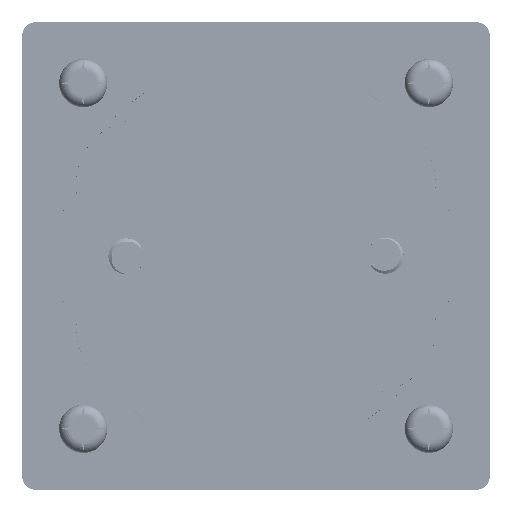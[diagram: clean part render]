
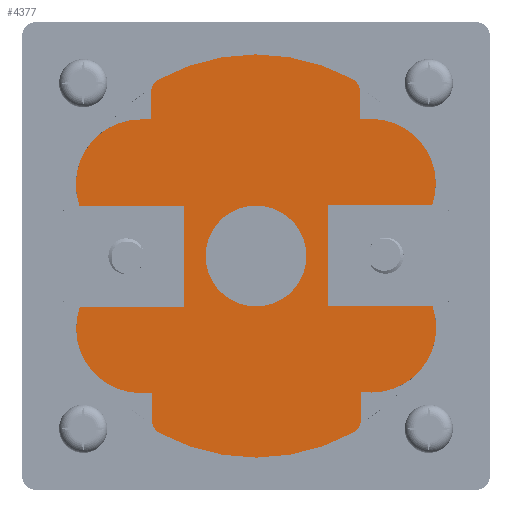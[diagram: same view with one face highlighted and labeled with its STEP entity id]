
A CAD part, front view. The second image highlights one B-rep face of the part: STEP entity #4377.
In plain terms, the highlighted planar face has unit normal (0, -1, 0).
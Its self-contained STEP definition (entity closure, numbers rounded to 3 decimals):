
#2232=FACE_BOUND('',#9215,.T.);
#2233=FACE_BOUND('',#9216,.T.);
#4377=ADVANCED_FACE('',(#2232,#2233),#5632,.F.);
#5632=PLANE('',#36930);
#9215=EDGE_LOOP('',(#22887,#22888,#22889,#22890,#22891,#22892,#22893,#22894,
#22895,#22896,#22897,#22898,#22899,#22900,#22901,#22902,#22903,#22904,#22905,
#22906,#22907,#22908,#22909,#22910,#22911));
#9216=EDGE_LOOP('',(#22912));
#11463=LINE('',#159522,#13922);
#11466=LINE('',#159528,#13925);
#11470=LINE('',#159540,#13929);
#11473=LINE('',#159548,#13932);
#11475=LINE('',#159552,#13934);
#11477=LINE('',#159556,#13936);
#11479=LINE('',#159572,#13938);
#11483=LINE('',#159593,#13942);
#11485=LINE('',#159610,#13944);
#11487=LINE('',#159614,#13946);
#11616=LINE('',#159958,#14075);
#11621=LINE('',#159970,#14080);
#11656=LINE('',#160084,#14115);
#11660=LINE('',#160106,#14119);
#13922=VECTOR('',#44005,1.);
#13925=VECTOR('',#44010,1.);
#13929=VECTOR('',#44022,1.);
#13932=VECTOR('',#44031,1.);
#13934=VECTOR('',#44035,1.);
#13936=VECTOR('',#44039,1.);
#13938=VECTOR('',#44047,1.);
#13942=VECTOR('',#44057,1.);
#13944=VECTOR('',#44067,1.);
#13946=VECTOR('',#44071,1.);
#14075=VECTOR('',#44412,1.);
#14080=VECTOR('',#44427,1.);
#14115=VECTOR('',#44528,1.);
#14119=VECTOR('',#44554,1.);
#22887=ORIENTED_EDGE('',*,*,#32037,.F.);
#22888=ORIENTED_EDGE('',*,*,#32035,.T.);
#22889=ORIENTED_EDGE('',*,*,#32031,.T.);
#22890=ORIENTED_EDGE('',*,*,#32212,.T.);
#22891=ORIENTED_EDGE('',*,*,#32280,.T.);
#22892=ORIENTED_EDGE('',*,*,#32281,.T.);
#22893=ORIENTED_EDGE('',*,*,#32282,.T.);
#22894=ORIENTED_EDGE('',*,*,#32220,.T.);
#22895=ORIENTED_EDGE('',*,*,#32027,.T.);
#22896=ORIENTED_EDGE('',*,*,#32024,.T.);
#22897=ORIENTED_EDGE('',*,*,#32021,.T.);
#22898=ORIENTED_EDGE('',*,*,#32019,.F.);
#22899=ORIENTED_EDGE('',*,*,#32017,.F.);
#22900=ORIENTED_EDGE('',*,*,#32015,.F.);
#22901=ORIENTED_EDGE('',*,*,#32013,.T.);
#22902=ORIENTED_EDGE('',*,*,#32011,.T.);
#22903=ORIENTED_EDGE('',*,*,#32273,.T.);
#22904=ORIENTED_EDGE('',*,*,#32283,.T.);
#22905=ORIENTED_EDGE('',*,*,#32284,.T.);
#22906=ORIENTED_EDGE('',*,*,#32285,.T.);
#22907=ORIENTED_EDGE('',*,*,#32286,.T.);
#22908=ORIENTED_EDGE('',*,*,#32039,.T.);
#22909=ORIENTED_EDGE('',*,*,#32008,.T.);
#22910=ORIENTED_EDGE('',*,*,#32005,.F.);
#22911=ORIENTED_EDGE('',*,*,#32002,.F.);
#22912=ORIENTED_EDGE('',*,*,#32001,.F.);
#27337=VERTEX_POINT('',#159520);
#27338=VERTEX_POINT('',#159523);
#27339=VERTEX_POINT('',#159524);
#27340=VERTEX_POINT('',#159529);
#27342=VERTEX_POINT('',#159535);
#27343=VERTEX_POINT('',#159539);
#27344=VERTEX_POINT('',#159541);
#27345=VERTEX_POINT('',#159545);
#27346=VERTEX_POINT('',#159549);
#27347=VERTEX_POINT('',#159553);
#27348=VERTEX_POINT('',#159557);
#27349=VERTEX_POINT('',#159561);
#27351=VERTEX_POINT('',#159573);
#27353=VERTEX_POINT('',#159585);
#27356=VERTEX_POINT('',#159592);
#27357=VERTEX_POINT('',#159594);
#27359=VERTEX_POINT('',#159607);
#27361=VERTEX_POINT('',#159615);
#27460=VERTEX_POINT('',#159956);
#27464=VERTEX_POINT('',#159971);
#27504=VERTEX_POINT('',#160082);
#27508=VERTEX_POINT('',#160096);
#27509=VERTEX_POINT('',#160098);
#27510=VERTEX_POINT('',#160101);
#27511=VERTEX_POINT('',#160103);
#27512=VERTEX_POINT('',#160105);
#32001=EDGE_CURVE('',#27337,#27337,#34092,.T.);
#32002=EDGE_CURVE('',#27338,#27339,#11463,.T.);
#32005=EDGE_CURVE('',#27339,#27340,#11466,.T.);
#32008=EDGE_CURVE('',#27342,#27340,#34094,.T.);
#32011=EDGE_CURVE('',#27344,#27343,#11470,.T.);
#32013=EDGE_CURVE('',#27345,#27344,#34095,.T.);
#32015=EDGE_CURVE('',#27345,#27346,#11473,.T.);
#32017=EDGE_CURVE('',#27346,#27347,#11475,.T.);
#32019=EDGE_CURVE('',#27347,#27348,#11477,.T.);
#32021=EDGE_CURVE('',#27349,#27348,#34096,.T.);
#32024=EDGE_CURVE('',#27351,#27349,#11479,.T.);
#32027=EDGE_CURVE('',#27353,#27351,#34097,.T.);
#32031=EDGE_CURVE('',#27357,#27356,#11483,.T.);
#32035=EDGE_CURVE('',#27359,#27357,#34099,.T.);
#32037=EDGE_CURVE('',#27359,#27338,#11485,.T.);
#32039=EDGE_CURVE('',#27361,#27342,#11487,.T.);
#32212=EDGE_CURVE('',#27356,#27460,#11616,.T.);
#32220=EDGE_CURVE('',#27464,#27353,#11621,.T.);
#32273=EDGE_CURVE('',#27343,#27504,#11656,.T.);
#32280=EDGE_CURVE('',#27460,#27508,#34165,.T.);
#32281=EDGE_CURVE('',#27508,#27509,#34166,.T.);
#32282=EDGE_CURVE('',#27509,#27464,#34167,.T.);
#32283=EDGE_CURVE('',#27504,#27510,#34168,.T.);
#32284=EDGE_CURVE('',#27510,#27511,#34169,.T.);
#32285=EDGE_CURVE('',#27511,#27512,#34170,.T.);
#32286=EDGE_CURVE('',#27512,#27361,#11660,.T.);
#34092=CIRCLE('',#36752,7.);
#34094=CIRCLE('',#36757,9.);
#34095=CIRCLE('',#36760,9.);
#34096=CIRCLE('',#36765,9.);
#34097=CIRCLE('',#36768,8.96);
#34099=CIRCLE('',#36772,9.);
#34165=CIRCLE('',#36924,2.);
#34166=CIRCLE('',#36925,28.);
#34167=CIRCLE('',#36926,2.);
#34168=CIRCLE('',#36927,2.);
#34169=CIRCLE('',#36928,28.);
#34170=CIRCLE('',#36929,2.);
#36752=AXIS2_PLACEMENT_3D('',#159519,#44001,#44002);
#36757=AXIS2_PLACEMENT_3D('',#159534,#44016,#44017);
#36760=AXIS2_PLACEMENT_3D('',#159544,#44026,#44027);
#36765=AXIS2_PLACEMENT_3D('',#159560,#44043,#44044);
#36768=AXIS2_PLACEMENT_3D('',#159584,#44050,#44051);
#36772=AXIS2_PLACEMENT_3D('',#159606,#44062,#44063);
#36924=AXIS2_PLACEMENT_3D('',#160095,#44542,#44543);
#36925=AXIS2_PLACEMENT_3D('',#160097,#44544,#44545);
#36926=AXIS2_PLACEMENT_3D('',#160099,#44546,#44547);
#36927=AXIS2_PLACEMENT_3D('',#160100,#44548,#44549);
#36928=AXIS2_PLACEMENT_3D('',#160102,#44550,#44551);
#36929=AXIS2_PLACEMENT_3D('',#160104,#44552,#44553);
#36930=AXIS2_PLACEMENT_3D('',#160107,#44555,#44556);
#44001=DIRECTION('',(0.,-1.,0.));
#44002=DIRECTION('',(-1.,0.,-0.003));
#44005=DIRECTION('',(-0.003,0.,1.));
#44010=DIRECTION('',(-1.,0.,-0.003));
#44016=DIRECTION('',(0.,-1.,0.));
#44017=DIRECTION('',(-1.,0.,-0.003));
#44022=DIRECTION('',(-1.,0.,-0.003));
#44026=DIRECTION('',(0.,-1.,0.));
#44027=DIRECTION('',(1.,0.,0.003));
#44031=DIRECTION('',(-1.,0.,-0.003));
#44035=DIRECTION('',(0.003,0.,-1.));
#44039=DIRECTION('',(1.,0.,0.003));
#44043=DIRECTION('',(0.,-1.,0.));
#44044=DIRECTION('',(0.,0.,-1.));
#44047=DIRECTION('',(1.,0.,0.003));
#44050=DIRECTION('',(0.,-1.,0.));
#44051=DIRECTION('',(0.,0.,-1.));
#44057=DIRECTION('',(1.,0.,0.003));
#44062=DIRECTION('',(0.,-1.,0.));
#44063=DIRECTION('',(-0.89,0.,0.456));
#44067=DIRECTION('',(1.,0.,0.003));
#44071=DIRECTION('',(-1.,0.,-0.003));
#44412=DIRECTION('',(0.003,0.,-1.));
#44427=DIRECTION('',(-0.003,0.,1.));
#44528=DIRECTION('',(-0.003,0.,1.));
#44542=DIRECTION('',(0.,-1.,0.));
#44543=DIRECTION('',(1.,0.,0.003));
#44544=DIRECTION('',(0.,-1.,0.));
#44545=DIRECTION('',(1.,0.,0.003));
#44546=DIRECTION('',(0.,-1.,0.));
#44547=DIRECTION('',(1.,0.,0.003));
#44548=DIRECTION('',(0.,-1.,0.));
#44549=DIRECTION('',(1.,0.,0.003));
#44550=DIRECTION('',(0.,-1.,0.));
#44551=DIRECTION('',(1.,0.,0.003));
#44552=DIRECTION('',(0.,-1.,0.));
#44553=DIRECTION('',(1.,0.,0.003));
#44554=DIRECTION('',(0.003,0.,-1.));
#44555=DIRECTION('',(0.,1.,0.));
#44556=DIRECTION('',(0.,0.,1.));
#159519=CARTESIAN_POINT('',(0.,-135.1,0.));
#159520=CARTESIAN_POINT('',(-7.,-135.1,-0.018));
#159522=CARTESIAN_POINT('',(-9.982,-135.1,-7.026));
#159523=CARTESIAN_POINT('',(-9.982,-135.1,-7.026));
#159524=CARTESIAN_POINT('',(-10.018,-135.1,6.974));
#159528=CARTESIAN_POINT('',(-10.018,-135.1,6.974));
#159529=CARTESIAN_POINT('',(-24.503,-135.1,6.937));
#159534=CARTESIAN_POINT('',(-16.026,-135.1,9.959));
#159535=CARTESIAN_POINT('',(-16.049,-135.1,18.959));
#159539=CARTESIAN_POINT('',(14.451,-135.1,19.037));
#159540=CARTESIAN_POINT('',(15.951,-135.1,19.041));
#159541=CARTESIAN_POINT('',(15.951,-135.1,19.041));
#159544=CARTESIAN_POINT('',(15.974,-135.1,10.041));
#159545=CARTESIAN_POINT('',(24.467,-135.1,7.063));
#159548=CARTESIAN_POINT('',(34.164,-135.1,7.088));
#159549=CARTESIAN_POINT('',(9.982,-135.1,7.026));
#159552=CARTESIAN_POINT('',(9.982,-135.1,7.026));
#159553=CARTESIAN_POINT('',(10.018,-135.1,-6.974));
#159556=CARTESIAN_POINT('',(10.018,-135.1,-6.974));
#159557=CARTESIAN_POINT('',(24.503,-135.1,-6.937));
#159560=CARTESIAN_POINT('',(16.026,-135.1,-9.959));
#159561=CARTESIAN_POINT('',(16.119,-135.1,-18.958));
#159572=CARTESIAN_POINT('',(23.752,-135.1,-18.938));
#159573=CARTESIAN_POINT('',(15.978,-135.1,-18.959));
#159584=CARTESIAN_POINT('',(16.02,-135.1,-9.999));
#159585=CARTESIAN_POINT('',(14.548,-135.1,-18.837));
#159592=CARTESIAN_POINT('',(-14.451,-135.1,-19.037));
#159593=CARTESIAN_POINT('',(23.753,-135.1,-18.934));
#159594=CARTESIAN_POINT('',(-15.951,-135.1,-19.041));
#159606=CARTESIAN_POINT('',(-15.974,-135.1,-10.041));
#159607=CARTESIAN_POINT('',(-24.468,-135.1,-7.063));
#159610=CARTESIAN_POINT('',(-34.164,-135.1,-7.088));
#159614=CARTESIAN_POINT('',(-14.549,-135.1,18.963));
#159615=CARTESIAN_POINT('',(-14.549,-135.1,18.963));
#159956=CARTESIAN_POINT('',(-14.441,-135.1,-22.835));
#159958=CARTESIAN_POINT('',(-14.451,-135.1,-19.037));
#159970=CARTESIAN_POINT('',(14.558,-135.1,-22.761));
#159971=CARTESIAN_POINT('',(14.558,-135.1,-22.761));
#160082=CARTESIAN_POINT('',(14.441,-135.1,22.835));
#160084=CARTESIAN_POINT('',(14.451,-135.1,19.037));
#160095=CARTESIAN_POINT('',(-12.441,-135.1,-22.83));
#160096=CARTESIAN_POINT('',(-13.398,-135.1,-24.586));
#160097=CARTESIAN_POINT('',(0.,-135.1,0.));
#160098=CARTESIAN_POINT('',(13.525,-135.1,-24.517));
#160099=CARTESIAN_POINT('',(12.558,-135.1,-22.766));
#160100=CARTESIAN_POINT('',(12.441,-135.1,22.83));
#160101=CARTESIAN_POINT('',(13.398,-135.1,24.586));
#160102=CARTESIAN_POINT('',(0.,-135.1,0.));
#160103=CARTESIAN_POINT('',(-13.525,-135.1,24.517));
#160104=CARTESIAN_POINT('',(-12.558,-135.1,22.766));
#160105=CARTESIAN_POINT('',(-14.558,-135.1,22.761));
#160106=CARTESIAN_POINT('',(-14.558,-135.1,22.761));
#160107=CARTESIAN_POINT('',(23.741,-135.1,-14.593));
